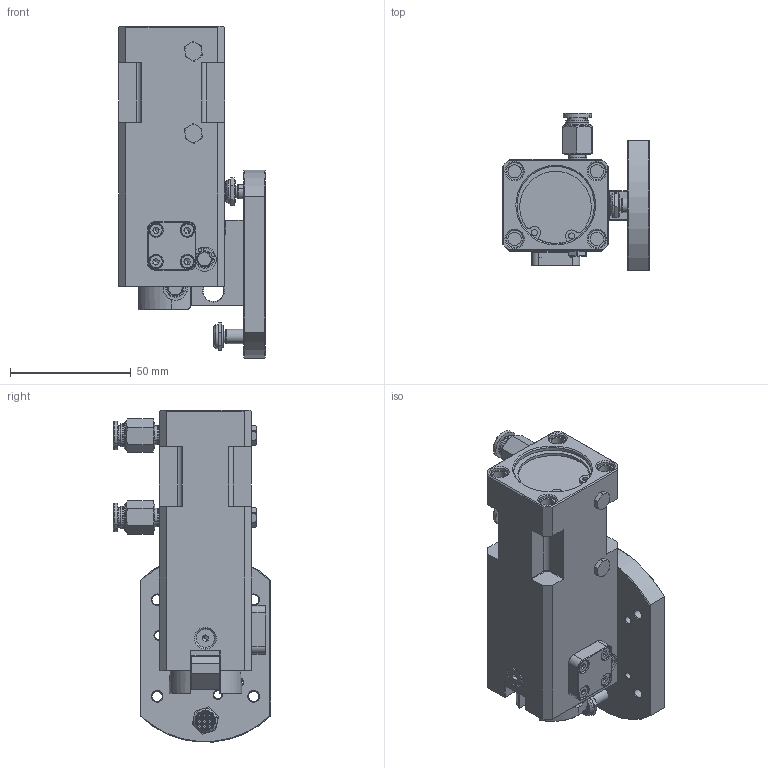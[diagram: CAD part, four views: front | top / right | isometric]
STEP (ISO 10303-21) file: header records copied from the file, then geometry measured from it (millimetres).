
FILE_DESCRIPTION (( 'STEP AP214' ), '1' );
FILE_NAME ('GFT30-90×°Åä.STEP', '2024-08-24T01:18:15', ( '' ), ( '' ), 'SwSTEP 2.0', 'SolidWorks 2018', '' );
FILE_SCHEMA (( 'AUTOMOTIVE_DESIGN' ));
Length unit declared in the file: millimetre
Products named in the file (1): GFT30-90蚾饜
Bounding box: 60.8 x 65.05 x 137.41 mm (x, y, z)
Volume: 156605.8 mm3; surface area: 68702.1 mm2
Topology: 32 solids, 34 shells, 2555 faces, 6203 edges, 3976 vertices
Faces by surface type: plane 1656, cylinder 484, cone 325, torus 86, bspline 4
Entity records: 79206 total; most frequent: CARTESIAN_POINT 17733, DIRECTION 12443, ORIENTED_EDGE 12370, EDGE_CURVE 6185, LINE 4165, VECTOR 4165, AXIS2_PLACEMENT_3D 4139, VERTEX_POINT 3976
